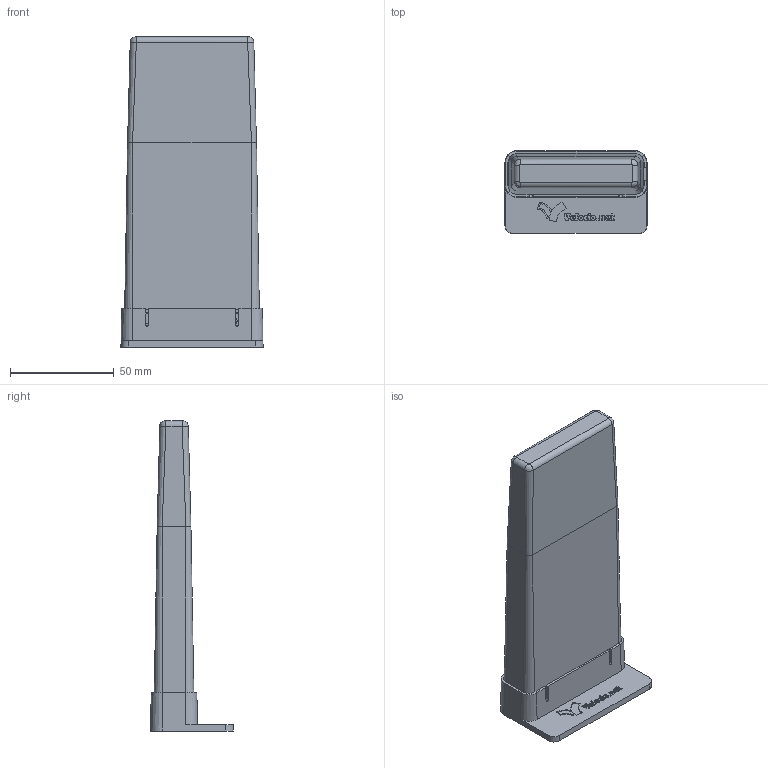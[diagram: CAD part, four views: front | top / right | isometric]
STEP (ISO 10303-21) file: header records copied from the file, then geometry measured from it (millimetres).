
FILE_DESCRIPTION(/* description */ (''),/* implementation_level */ '2;1');
FILE_NAME(/* name */ 'Status-D v2.step',/* time_stamp */ '2024-01-19T09:28:31-06:00',/* author */ (''),/* organization */ (''),/* preprocessor_version */ 'ST-DEVELOPER v20',/* originating_system */ 'Autodesk Translation Framework v12.14.0.127',/* authorisation */ '');
FILE_SCHEMA (('AUTOMOTIVE_DESIGN { 1 0 10303 214 3 1 1 }'));
Length unit declared in the file: inch
Products named in the file (1): Status-D
Bounding box: 68.33 x 39.88 x 149.1 mm (x, y, z)
Volume: 74989.7 mm3; surface area: 66736.1 mm2
Topology: 1 solids, 1 shells, 1091 faces, 3265 edges, 2155 vertices
Faces by surface type: plane 505, bspline 239, cylinder 224, torus 78, cone 45
Full cylindrical faces by diameter (mm): 2 x34, 2.5 x1, 3 x11, 11 x1, 12 x1
Entity records: 44547 total; most frequent: CARTESIAN_POINT 15911, ORIENTED_EDGE 6486, DIRECTION 5374, EDGE_CURVE 3243, VERTEX_POINT 2144, AXIS2_PLACEMENT_3D 1896, LINE 1582, VECTOR 1582
